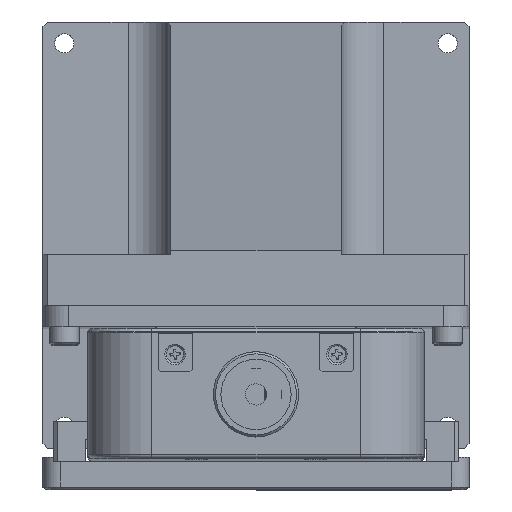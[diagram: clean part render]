
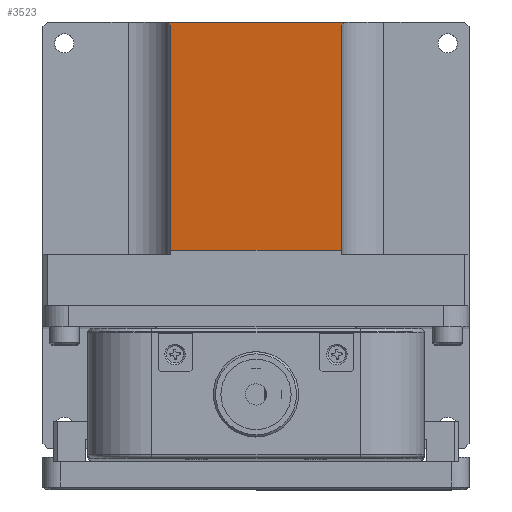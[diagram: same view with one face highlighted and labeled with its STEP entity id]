
A CAD part, top view. The second image highlights one B-rep face of the part: STEP entity #3523.
In plain terms, the highlighted planar face has unit normal (0, 0.977, 0.213).
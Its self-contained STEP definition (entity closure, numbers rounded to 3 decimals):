
#114=CARTESIAN_POINT('',(-21.34,100.0,15.));
#115=VERTEX_POINT('',#114);
#140=CARTESIAN_POINT('',(-20.0,98.911,20.0));
#141=VERTEX_POINT('',#140);
#148=CARTESIAN_POINT('',(-30.0,98.911,20.0));
#149=DIRECTION('',(0.,0.977,0.213));
#150=DIRECTION('',(0.,0.213,-0.977));
#151=AXIS2_PLACEMENT_3D('',#148,#149,#150);
#152=ELLIPSE('',#151,10.234,10.0);
#153=EDGE_CURVE('',#141,#115,#152,.T.);
#172=CARTESIAN_POINT('',(-20.0,46.0,263.));
#173=VERTEX_POINT('',#172);
#180=CARTESIAN_POINT('',(-20.0,98.911,20.0));
#181=DIRECTION('',(0.0,-0.213,0.977));
#182=VECTOR('',#181,248.694);
#183=LINE('',#180,#182);
#184=EDGE_CURVE('',#141,#173,#183,.T.);
#395=CARTESIAN_POINT('',(21.34,100.0,15.));
#396=VERTEX_POINT('',#395);
#404=CARTESIAN_POINT('',(20.0,98.911,20.0));
#405=VERTEX_POINT('',#404);
#406=CARTESIAN_POINT('',(30.0,98.911,20.0));
#407=DIRECTION('',(0.,0.977,0.213));
#408=DIRECTION('',(0.,0.213,-0.977));
#409=AXIS2_PLACEMENT_3D('',#406,#407,#408);
#410=ELLIPSE('',#409,10.234,10.0);
#411=EDGE_CURVE('',#405,#396,#410,.F.);
#617=CARTESIAN_POINT('',(20.0,46.0,263.));
#618=VERTEX_POINT('',#617);
#619=CARTESIAN_POINT('',(20.0,46.0,263.));
#620=DIRECTION('',(0.0,0.213,-0.977));
#621=VECTOR('',#620,248.694);
#622=LINE('',#619,#621);
#623=EDGE_CURVE('',#618,#405,#622,.T.);
#3500=CARTESIAN_POINT('',(0.0,46.0,263.));
#3501=DIRECTION('',(0.0,0.977,0.213));
#3502=DIRECTION('',(0.0,-0.213,0.977));
#3503=AXIS2_PLACEMENT_3D('',#3500,#3501,#3502);
#3504=PLANE('',#3503);
#3505=ORIENTED_EDGE('',*,*,#623,.T.);
#3506=ORIENTED_EDGE('',*,*,#411,.T.);
#3507=CARTESIAN_POINT('',(-21.34,100.0,15.));
#3508=DIRECTION('',(1.0,0.0,0.0));
#3509=VECTOR('',#3508,42.679);
#3510=LINE('',#3507,#3509);
#3511=EDGE_CURVE('',#115,#396,#3510,.T.);
#3512=ORIENTED_EDGE('',*,*,#3511,.F.);
#3513=ORIENTED_EDGE('',*,*,#153,.F.);
#3514=ORIENTED_EDGE('',*,*,#184,.T.);
#3515=CARTESIAN_POINT('',(-20.0,46.0,263.));
#3516=DIRECTION('',(1.0,0.0,0.0));
#3517=VECTOR('',#3516,40.0);
#3518=LINE('',#3515,#3517);
#3519=EDGE_CURVE('',#173,#618,#3518,.T.);
#3520=ORIENTED_EDGE('',*,*,#3519,.T.);
#3521=EDGE_LOOP('',(#3505,#3506,#3512,#3513,#3514,#3520));
#3522=FACE_OUTER_BOUND('',#3521,.T.);
#3523=ADVANCED_FACE('',(#3522),#3504,.T.);
